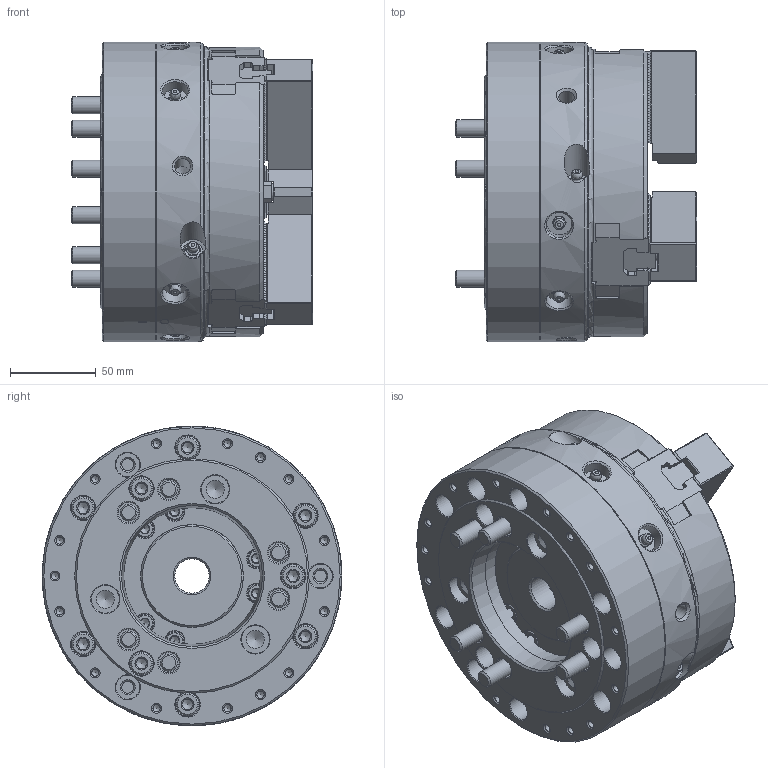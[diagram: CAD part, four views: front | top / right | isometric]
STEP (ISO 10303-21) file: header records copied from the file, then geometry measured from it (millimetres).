
FILE_DESCRIPTION (( 'STEP AP214' ), '1' );
FILE_NAME ('DT1_HOH-206_OUTSIDE_VIEW_OC.STEP', '2024-05-09T06:01:38', ( '' ), ( '' ), 'SwSTEP 2.0', 'SolidWorks 2022', '' );
FILE_SCHEMA (( 'AUTOMOTIVE_DESIGN' ));
Length unit declared in the file: millimetre
Products named in the file (9): DT1_HOH-206_OUTSIDE_VIEW_OC; DT1_HOH-206_DRAWNUT^DT1_HOH-206_ﾃﾞﾌｫﾙﾄ; DT1_HOH-206_BASE^DT1_HOH-206_ﾃﾞﾌｫﾙﾄ; DT1_HOH-206_M10x100^DT1_HOH-206_ﾃﾞﾌｫﾙﾄ; DT1_HOH-206_M10x25^DT1_HOH-206_ﾃﾞﾌｫﾙﾄ; DT1_HOH-206_TNUT^DT1_HOH-206_ﾃﾞﾌｫﾙﾄ; DT1_HOH-206_COVER^DT1_HOH-206_ﾃﾞﾌｫﾙﾄ; DT1_HOH-206_SOFTJAW^DT1_HOH-206_ﾃﾞﾌｫﾙﾄ; DT1_HOH-206_M5x10^DT1_HOH-206_ﾃﾞﾌｫﾙﾄ
Assembly tree (24 placements, depth 2):
  DT1_HOH-206_OUTSIDE_VIEW_OC
    DT1_HOH-206_SOFTJAW^DT1_HOH-206_ﾃﾞﾌｫﾙﾄ  x3
    DT1_HOH-206_TNUT^DT1_HOH-206_ﾃﾞﾌｫﾙﾄ  x3
    DT1_HOH-206_DRAWNUT^DT1_HOH-206_ﾃﾞﾌｫﾙﾄ
    DT1_HOH-206_COVER^DT1_HOH-206_ﾃﾞﾌｫﾙﾄ
    DT1_HOH-206_BASE^DT1_HOH-206_ﾃﾞﾌｫﾙﾄ
    DT1_HOH-206_M5x10^DT1_HOH-206_ﾃﾞﾌｫﾙﾄ  x3
    DT1_HOH-206_M10x25^DT1_HOH-206_ﾃﾞﾌｫﾙﾄ  x6
    DT1_HOH-206_M10x100^DT1_HOH-206_ﾃﾞﾌｫﾙﾄ  x6
Bounding box: 141 x 175 x 175 mm (x, y, z)
Volume: 2033811 mm3; surface area: 313444.4 mm2
Topology: 24 solids, 62 shells, 3639 faces, 9917 edges, 6520 vertices
Faces by surface type: plane 2599, cone 404, cylinder 389, bspline 172, torus 57, sphere 18
Full cylindrical faces by diameter (mm): 4.2 x18, 5 x3, 5.5 x6, 6.4 x3, 7 x12, 8 x6, 8.6 x6, 9 x9, 9.5 x3, 10 x15, 11 x6, 11.5 x3, 12 x12, 13.27 x9, 14 x12, 15 x10, 16.27 x12, 16.28 x3, 17 x12, 20 x1, 45 x1, 48 x2, 55.5 x1, 57.8 x2, 60 x2, 65.5 x2, 79.8 x1, 170.6 x1, 171 x2, 171.4 x1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
Entity records: 105601 total; most frequent: CARTESIAN_POINT 36709, ORIENTED_EDGE 14682, DIRECTION 12553, EDGE_CURVE 7341, VERTEX_POINT 5010, VECTOR 4857, LINE 4857, AXIS2_PLACEMENT_3D 3848
